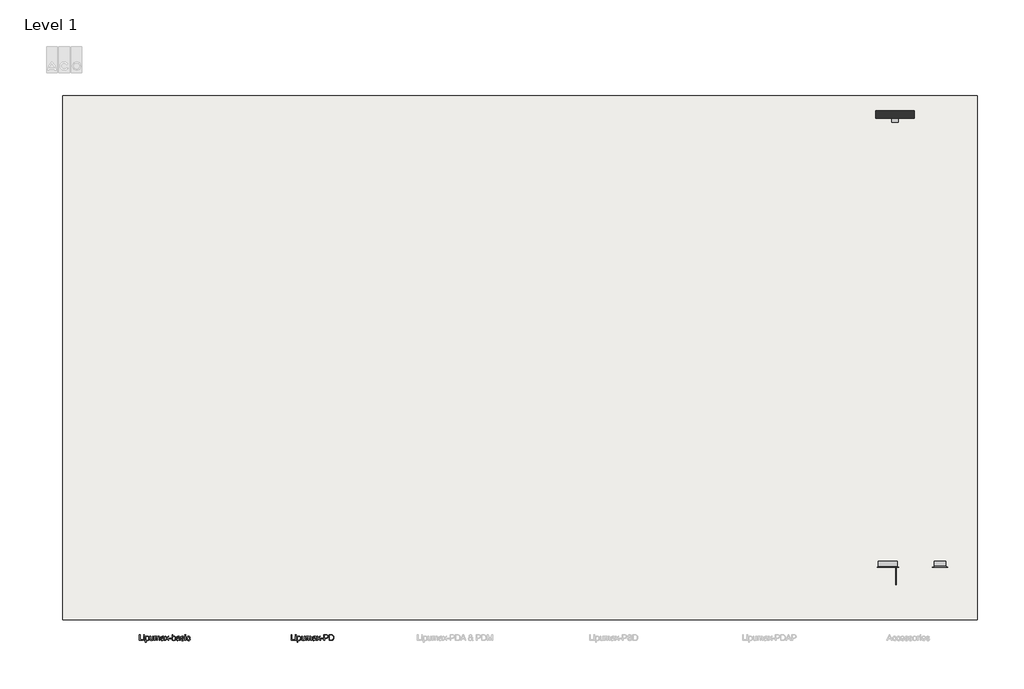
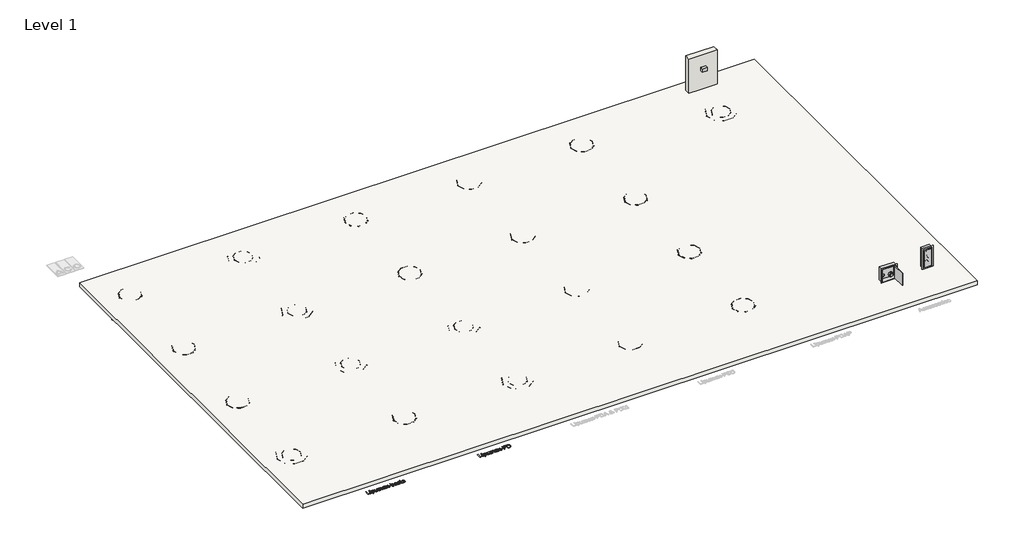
# One storey, part 1 of 2: 29 unitary equipment elements, 8 proxies, 2 furniture elements, 1 pipe fitting, 1 slab, 1 wall.
"""IFC4 building model written with IfcOpenShell, lengths in millimetres."""

from ifc_helpers import new_model, si_unit, frame, origin, origin_with_axes, place, context, project, spatial, polyline, outline, extrude, transform, mapped, element, save
from components import ns2_200_69843ea5, ns4_800_0bbe8e35, ns5_5_550_801f7e5f, message_system_with_gsm_module_9e46706c, std_7b1f1c58, furniture_300_x_725_x_160_cc6d1901, furniture_500x500x160_e2bdd59b, std_nested_ca1f84b6, std_nested_3f0f99d6, std_nested_5be599bc, std_nested_2d83406e, std_nested_4c688dec, std_nested_ce48833b, std_nested_3313eb94, std_nested_9dcc50c5, std_nested_bba80288, std_nested_8366b505, std_nested_abc9d05a, std_nested_026c7c33, std_nested_54cb986b, std_nested_809f9411, std_nested_0c7df508, std_nested_59d10d0a, std_nested_5bbcf8f4, std_nested_d4eab2f7

model = new_model("IFC4")

# Units and contexts
model_context = context("Model", 3, world=origin())
ifc_project = project(units=[si_unit("LENGTHUNIT", "METRE", prefix="MILLI")], contexts=[model_context])

# Site, building, storey
site = spatial("IfcSite", under=ifc_project)
building = spatial("IfcBuilding", under=site)
storey = spatial("IfcBuildingStorey", under=building, Name="Level 1", Elevation=0.0)

# Proxies
placement = place(None, origin())
element("IfcBuildingElementProxy", 1, Name="100mm ACO", ObjectType="100mm ACO", at=placement, inside=storey, context=model_context, shape_type="SweptSolid", body=[
    extrude(outline(polyline([(1856.3119851, -2991.7813075), (1761.8675406, -2991.7813075), (1761.8675406, -2841.7813075), (1781.3119851, -2841.7813075), (1781.3119851, -2975.1146408), (1856.3119851, -2975.1146408), (1856.3119851, -2991.7813075)])), origin_with_axes(), (0.0, 0.0, 1.0), 10.0),
    extrude(outline(polyline([(1895.200874, -2991.7813075), (1875.7564295, -2991.7813075), (1875.7564295, -2883.4479742), (1895.200874, -2883.4479742), (1895.200874, -2991.7813075)])), origin_with_axes(), (0.0, 0.0, 1.0), 10.0),
    extrude(outline(polyline([(1895.200874, -2861.2257519), (1875.7564295, -2861.2257519), (1875.7564295, -2841.7813075), (1895.200874, -2841.7813075), (1895.200874, -2861.2257519)])), origin_with_axes(), (0.0, 0.0, 1.0), 10.0),
    extrude(outline(polyline([(1942.6184087, -2896.5122103), (1955.3028705, -2884.6306999), (1972.8050406, -2880.6701964), (1991.294624, -2884.554745), (2005.4439295, -2896.2083908), (2014.4283045, -2914.101186), (2017.4230962, -2936.7031825), (2014.0376795, -2960.5367328), (2003.8814295, -2978.9123839), (1988.7989642, -2990.6474099), (1970.6349017, -2994.5590853), (1955.0750059, -2991.3689811), (1942.9439295, -2981.7986686), (1942.4230962, -3033.4479742), (1922.9786517, -3033.4479742), (1922.9786517, -2883.4479742), (1942.4230962, -2883.4479742), (1942.6184087, -2896.5122103)]), holes=[polyline([(1968.5081656, -2980.6701964), (1980.1672368, -2977.930396), (1989.623617, -2969.710995), (1995.8898931, -2956.0662467), (1997.9786517, -2937.0504047), (1995.9658479, -2918.9351703), (1989.9274365, -2905.5616894), (1980.7531743, -2897.3097363), (1969.3328184, -2894.5590853), (1957.5109868, -2897.6244065), (1948.0003531, -2906.82037), (1941.7340771, -2920.899146), (1939.6453184, -2938.6129047), (1941.6472715, -2956.7823926), (1947.6531309, -2969.9714117), (1956.8707958, -2977.9955002), (1968.5081656, -2980.6701964)])]), origin_with_axes(), (0.0, 0.0, 1.0), 10.0),
    extrude(outline(polyline([(2128.5342073, -2991.7813075), (2111.8675406, -2991.7813075), (2111.8675406, -2976.0260992), (2096.5029573, -2989.9258387), (2077.0585128, -2994.5590853), (2055.8779573, -2989.2856478), (2047.7724885, -2983.0193717), (2042.9005267, -2974.7674186), (2039.6453184, -2950.7656825), (2039.6453184, -2883.4479742), (2059.0897628, -2883.4479742), (2059.0897628, -2944.9063075), (2060.435249, -2966.0434603), (2067.466499, -2976.5469325), (2081.0081656, -2980.6701964), (2090.8660215, -2978.8255783), (2100.1270892, -2973.2917242), (2106.8490944, -2961.9635992), (2109.0897628, -2942.7361686), (2109.0897628, -2883.4479742), (2128.5342073, -2883.4479742), (2128.5342073, -2991.7813075)])), origin_with_axes(), (0.0, 0.0, 1.0), 10.0),
    extrude(outline(polyline([(2300.7564295, -2991.7813075), (2281.3119851, -2991.7813075), (2281.3119851, -2921.7292242), (2280.3354226, -2908.5130783), (2275.2572976, -2898.7908561), (2262.4751795, -2894.5590853), (2252.763808, -2896.4905089), (2244.4630267, -2902.2847797), (2238.7664122, -2912.4193283), (2236.8675406, -2927.3715853), (2236.8675406, -2991.7813075), (2217.4230962, -2991.7813075), (2217.4230962, -2919.6458908), (2216.2295198, -2907.5039637), (2212.6487906, -2899.8976269), (2206.8762212, -2895.8937207), (2199.107124, -2894.5590853), (2188.6796066, -2896.647844), (2180.3137212, -2902.91412), (2174.8124191, -2914.9095627), (2172.9786517, -2934.1858214), (2172.9786517, -2991.7813075), (2153.5342073, -2991.7813075), (2153.5342073, -2883.4479742), (2170.200874, -2883.4479742), (2170.200874, -2898.2917242), (2184.2742247, -2885.0755783), (2203.1001795, -2880.6701964), (2222.8701448, -2885.4228005), (2234.0897628, -2899.7240158), (2248.3692767, -2885.4336512), (2267.2494851, -2880.6701964), (2281.9087733, -2882.9488422), (2292.3796934, -2889.7847797), (2298.6622455, -2901.1780089), (2300.7564295, -2917.1285297), (2300.7564295, -2991.7813075)])), origin_with_axes(), (0.0, 0.0, 1.0), 10.0),
    extrude(outline(polyline([(2422.9786517, -2991.7813075), (2403.5342073, -2991.7813075), (2397.9786517, -2978.6736686), (2379.2395024, -2990.5877311), (2359.0463601, -2994.5590853), (2344.0669764, -2992.3889464), (2332.6357698, -2985.8785297), (2325.3929313, -2975.8090853), (2322.9786517, -2962.961863), (2325.3441031, -2950.4998405), (2332.4404573, -2940.4575228), (2345.3853358, -2933.117028), (2365.2963601, -2928.7604742), (2382.310249, -2926.1563075), (2397.9786517, -2922.336863), (2397.4795198, -2910.2925922), (2394.5715337, -2902.9792242), (2386.8241378, -2896.8811339), (2372.4578184, -2894.5590853), (2354.3371587, -2899.2682867), (2348.7219243, -2906.0011426), (2345.200874, -2916.7813075), (2325.7564295, -2914.3941547), (2331.0895458, -2899.680613), (2341.0993115, -2889.133738), (2355.7748757, -2882.7860818), (2375.1053878, -2880.6701964), (2392.1572542, -2882.1187641), (2403.9899365, -2886.4644672), (2411.4335128, -2892.8555262), (2415.3180615, -2900.4401617), (2417.4230962, -2921.5122103), (2417.4230962, -2946.2951964), (2418.247749, -2976.6771408), (2422.9786517, -2991.7813075)]), holes=[polyline([(2397.9786517, -2943.1701964), (2397.9786517, -2936.2257519), (2363.061117, -2944.211863), (2347.5826014, -2950.2991026), (2342.4230962, -2962.6580436), (2347.9786517, -2975.5920714), (2363.9942767, -2980.6701964), (2376.6516118, -2978.5434603), (2387.7138948, -2972.1632519), (2395.4124625, -2960.6615158), (2397.9786517, -2943.1701964)])]), origin_with_axes(), (0.0, 0.0, 1.0), 10.0),
    extrude(outline(polyline([(2534.0897628, -2991.7813075), (2514.5151101, -2991.7813075), (2484.1331656, -2949.3333908), (2453.7512212, -2991.7813075), (2434.0897628, -2991.7813075), (2474.2373323, -2935.6615158), (2436.8675406, -2883.4479742), (2456.4421934, -2883.4479742), (2484.0463601, -2921.946238), (2511.607124, -2883.4479742), (2531.3119851, -2883.4479742), (2493.8987906, -2935.7049186), (2534.0897628, -2991.7813075)])), origin_with_axes(), (0.0, 0.0, 1.0), 10.0),
    extrude(outline(polyline([(2597.9786517, -2941.7813075), (2539.6453184, -2941.7813075), (2539.6453184, -2927.8924186), (2597.9786517, -2927.8924186), (2597.9786517, -2941.7813075)])), origin_with_axes(), (0.0, 0.0, 1.0), 10.0),
    extrude(outline(polyline([(2637.1279573, -2894.1684603), (2649.6713601, -2884.0447624), (2666.294624, -2880.6701964), (2684.9306917, -2884.4896408), (2699.4326448, -2895.9479742), (2708.7588167, -2913.5695019), (2711.8675406, -2935.8785297), (2708.4495719, -2960.9816113), (2698.1956656, -2979.4332172), (2683.3627663, -2990.7776183), (2666.2078184, -2994.5590853), (2649.6822108, -2990.8481478), (2637.2581656, -2979.7153353), (2636.8675406, -2991.7813075), (2617.4230962, -2991.7813075), (2617.4230962, -2841.7813075), (2636.8675406, -2841.7813075), (2637.1279573, -2894.1684603)]), holes=[polyline([(2664.3849017, -2980.6701964), (2675.5122889, -2977.8327398), (2684.5020892, -2969.32037), (2690.4428444, -2955.6756217), (2692.4230962, -2937.4410297), (2690.6001795, -2919.7381217), (2685.1314295, -2906.1259255), (2676.450874, -2897.4507953), (2664.9925406, -2894.5590853), (2653.5559087, -2897.5430262), (2644.5932351, -2906.4948492), (2638.7989642, -2920.0148144), (2636.8675406, -2936.7031825), (2640.0793462, -2962.1372103), (2649.7581656, -2975.179745), (2664.3849017, -2980.6701964)])]), origin_with_axes(), (0.0, 0.0, 1.0), 10.0),
    extrude(outline(polyline([(2828.5342073, -2991.7813075), (2809.0897628, -2991.7813075), (2803.5342073, -2978.6736686), (2784.795058, -2990.5877311), (2764.6019156, -2994.5590853), (2749.6225319, -2992.3889464), (2738.1913253, -2985.8785297), (2730.9484868, -2975.8090853), (2728.5342073, -2962.961863), (2730.8996587, -2950.4998405), (2737.9960128, -2940.4575228), (2750.9408913, -2933.117028), (2770.8519156, -2928.7604742), (2787.8658045, -2926.1563075), (2803.5342073, -2922.336863), (2803.0350753, -2910.2925922), (2800.1270892, -2902.9792242), (2792.3796934, -2896.8811339), (2778.013374, -2894.5590853), (2759.8927142, -2899.2682867), (2754.2774799, -2906.0011426), (2750.7564295, -2916.7813075), (2731.3119851, -2914.3941547), (2736.6451014, -2899.680613), (2746.654867, -2889.133738), (2761.3304313, -2882.7860818), (2780.6609434, -2880.6701964), (2797.7128097, -2882.1187641), (2809.545492, -2886.4644672), (2816.9890684, -2892.8555262), (2820.873617, -2900.4401617), (2822.9786517, -2921.5122103), (2822.9786517, -2946.2951964), (2823.8033045, -2976.6771408), (2828.5342073, -2991.7813075)]), holes=[polyline([(2803.5342073, -2943.1701964), (2803.5342073, -2936.2257519), (2768.6166726, -2944.211863), (2753.1381569, -2950.2991026), (2747.9786517, -2962.6580436), (2753.5342073, -2975.5920714), (2769.5498323, -2980.6701964), (2782.2071674, -2978.5434603), (2793.2694503, -2972.1632519), (2800.9680181, -2960.6615158), (2803.5342073, -2943.1701964)])]), origin_with_axes(), (0.0, 0.0, 1.0), 10.0),
    extrude(outline(polyline([(2911.8675406, -2914.0035297), (2909.4641118, -2905.4965853), (2904.6843809, -2899.4201964), (2888.0828184, -2894.5590853), (2871.1123323, -2898.7257519), (2866.2620719, -2903.836429), (2864.6453184, -2910.8351269), (2868.920492, -2921.555613), (2889.0810823, -2927.3715853), (2915.6652837, -2933.6215853), (2929.2286517, -2943.1050922), (2934.0897628, -2960.0972797), (2931.0732698, -2973.492462), (2922.0237906, -2984.5981478), (2907.9287385, -2992.0688509), (2889.7755267, -2994.5590853), (2871.0635042, -2992.4649012), (2856.9413253, -2986.1823492), (2847.3981396, -2975.7222797), (2842.4230962, -2961.0955436), (2861.8675406, -2958.4479742), (2864.6832958, -2968.1973231), (2870.2659781, -2975.1363422), (2878.6264382, -2979.2867328), (2889.7755267, -2980.6701964), (2900.3983566, -2979.2324794), (2908.2217073, -2974.9193283), (2913.0394156, -2968.5445453), (2914.6453184, -2960.9219325), (2911.7590337, -2951.9592589), (2904.5541726, -2946.9028353), (2884.1765684, -2942.5625575), (2864.4120285, -2937.7231478), (2852.7746587, -2930.8438075), (2847.0943201, -2922.1741026), (2845.200874, -2911.9635992), (2848.0057785, -2899.5341287), (2856.420492, -2889.5026617), (2869.576959, -2882.8783127), (2886.607124, -2880.6701964), (2904.5053444, -2882.60162), (2917.9222281, -2888.3958908), (2926.857775, -2898.0421582), (2931.3119851, -2911.5295714), (2911.8675406, -2914.0035297)])), origin_with_axes(), (0.0, 0.0, 1.0), 10.0),
    extrude(outline(polyline([(2972.9786517, -2991.7813075), (2953.5342073, -2991.7813075), (2953.5342073, -2883.4479742), (2972.9786517, -2883.4479742), (2972.9786517, -2991.7813075)])), origin_with_axes(), (0.0, 0.0, 1.0), 10.0),
    extrude(outline(polyline([(2972.9786517, -2861.2257519), (2953.5342073, -2861.2257519), (2953.5342073, -2841.7813075), (2972.9786517, -2841.7813075), (2972.9786517, -2861.2257519)])), origin_with_axes(), (0.0, 0.0, 1.0), 10.0),
    extrude(outline(polyline([(3092.4230962, -2955.1059603), (3086.3792594, -2972.8142936), (3075.6262212, -2985.0538769), (3061.639676, -2992.1827832), (3045.8953184, -2994.5590853), (3024.4217941, -2990.6745367), (3008.4387212, -2979.0208908), (2998.5103358, -2960.9544846), (2995.200874, -2937.8316547), (2997.0888948, -2918.6910297), (3002.7529573, -2903.8038769), (3011.2544764, -2892.9369065), (3021.654867, -2885.8568283), (3045.5046934, -2880.6701964), (3061.3304313, -2882.7915071), (3074.6930615, -2889.1554394), (3084.4966639, -2899.6317849), (3089.6453184, -2914.0903353), (3070.200874, -2916.7813075), (3061.3467073, -2900.1363422), (3054.3805615, -2895.9533995), (3045.7217073, -2894.5590853), (3032.2885476, -2897.3856912), (3022.544624, -2905.8655089), (3016.6201448, -2919.4126009), (3014.6453184, -2937.4410297), (3016.6255701, -2955.7841287), (3022.5663253, -2969.4071755), (3032.2397194, -2977.8544412), (3045.4178878, -2980.6701964), (3056.15465, -2978.9340853), (3064.3197976, -2973.7257519), (3069.9241813, -2965.0451964), (3072.9786517, -2952.8924186), (3092.4230962, -2955.1059603)])), origin_with_axes(), (0.0, 0.0, 1.0), 10.0),
])
element("IfcBuildingElementProxy", 2, Name="100mm ACO", ObjectType="100mm ACO", at=placement, inside=storey, context=model_context, shape_type="SweptSolid", body=[
    extrude(outline(polyline([(5821.2579149, -2991.7813075), (5726.8134705, -2991.7813075), (5726.8134705, -2841.7813075), (5746.2579149, -2841.7813075), (5746.2579149, -2975.1146408), (5821.2579149, -2975.1146408), (5821.2579149, -2991.7813075)])), origin_with_axes(), (0.0, 0.0, 1.0), 10.0),
    extrude(outline(polyline([(5860.1468038, -2991.7813075), (5840.7023594, -2991.7813075), (5840.7023594, -2883.4479742), (5860.1468038, -2883.4479742), (5860.1468038, -2991.7813075)])), origin_with_axes(), (0.0, 0.0, 1.0), 10.0),
    extrude(outline(polyline([(5860.1468038, -2861.2257519), (5840.7023594, -2861.2257519), (5840.7023594, -2841.7813075), (5860.1468038, -2841.7813075), (5860.1468038, -2861.2257519)])), origin_with_axes(), (0.0, 0.0, 1.0), 10.0),
    extrude(outline(polyline([(5907.5643385, -2896.5122103), (5920.2488003, -2884.6306999), (5937.7509705, -2880.6701964), (5956.2405538, -2884.554745), (5970.3898594, -2896.2083908), (5979.3742344, -2914.101186), (5982.369026, -2936.7031825), (5978.9836094, -2960.5367328), (5968.8273594, -2978.9123839), (5953.7448941, -2990.6474099), (5935.5808316, -2994.5590853), (5920.0209357, -2991.3689811), (5907.8898594, -2981.7986686), (5907.369026, -3033.4479742), (5887.9245816, -3033.4479742), (5887.9245816, -2883.4479742), (5907.369026, -2883.4479742), (5907.5643385, -2896.5122103)]), holes=[polyline([(5933.4540955, -2980.6701964), (5945.1131666, -2977.930396), (5954.5695469, -2969.710995), (5960.8358229, -2956.0662467), (5962.9245816, -2937.0504047), (5960.9117778, -2918.9351703), (5954.8733663, -2905.5616894), (5945.6991041, -2897.3097363), (5934.2787482, -2894.5590853), (5922.4569166, -2897.6244065), (5912.946283, -2906.82037), (5906.6800069, -2920.899146), (5904.5912482, -2938.6129047), (5906.5932014, -2956.7823926), (5912.5990607, -2969.9714117), (5921.8167257, -2977.9955002), (5933.4540955, -2980.6701964)])]), origin_with_axes(), (0.0, 0.0, 1.0), 10.0),
    extrude(outline(polyline([(6093.4801371, -2991.7813075), (6076.8134705, -2991.7813075), (6076.8134705, -2976.0260992), (6061.4488871, -2989.9258387), (6042.0044427, -2994.5590853), (6020.8238871, -2989.2856478), (6012.7184184, -2983.0193717), (6007.8464566, -2974.7674186), (6004.5912482, -2950.7656825), (6004.5912482, -2883.4479742), (6024.0356927, -2883.4479742), (6024.0356927, -2944.9063075), (6025.3811788, -2966.0434603), (6032.4124288, -2976.5469325), (6045.9540955, -2980.6701964), (6055.8119514, -2978.8255783), (6065.0730191, -2973.2917242), (6071.7950243, -2961.9635992), (6074.0356927, -2942.7361686), (6074.0356927, -2883.4479742), (6093.4801371, -2883.4479742), (6093.4801371, -2991.7813075)])), origin_with_axes(), (0.0, 0.0, 1.0), 10.0),
    extrude(outline(polyline([(6265.7023594, -2991.7813075), (6246.2579149, -2991.7813075), (6246.2579149, -2921.7292242), (6245.2813524, -2908.5130783), (6240.2032274, -2898.7908561), (6227.4211094, -2894.5590853), (6217.7097378, -2896.4905089), (6209.4089566, -2902.2847797), (6203.712342, -2912.4193283), (6201.8134705, -2927.3715853), (6201.8134705, -2991.7813075), (6182.369026, -2991.7813075), (6182.369026, -2919.6458908), (6181.1754496, -2907.5039637), (6177.5947205, -2899.8976269), (6171.822151, -2895.8937207), (6164.0530538, -2894.5590853), (6153.6255364, -2896.647844), (6145.259651, -2902.91412), (6139.7583489, -2914.9095627), (6137.9245816, -2934.1858214), (6137.9245816, -2991.7813075), (6118.4801371, -2991.7813075), (6118.4801371, -2883.4479742), (6135.1468038, -2883.4479742), (6135.1468038, -2898.2917242), (6149.2201545, -2885.0755783), (6168.0461094, -2880.6701964), (6187.8160746, -2885.4228005), (6199.0356927, -2899.7240158), (6213.3152066, -2885.4336512), (6232.1954149, -2880.6701964), (6246.8547031, -2882.9488422), (6257.3256232, -2889.7847797), (6263.6081753, -2901.1780089), (6265.7023594, -2917.1285297), (6265.7023594, -2991.7813075)])), origin_with_axes(), (0.0, 0.0, 1.0), 10.0),
    extrude(outline(polyline([(6387.9245816, -2991.7813075), (6368.4801371, -2991.7813075), (6362.9245816, -2978.6736686), (6344.1854323, -2990.5877311), (6323.9922899, -2994.5590853), (6309.0129062, -2992.3889464), (6297.5816996, -2985.8785297), (6290.3388611, -2975.8090853), (6287.9245816, -2962.961863), (6290.290033, -2950.4998405), (6297.3863871, -2940.4575228), (6310.3312656, -2933.117028), (6330.2422899, -2928.7604742), (6347.2561788, -2926.1563075), (6362.9245816, -2922.336863), (6362.4254496, -2910.2925922), (6359.5174635, -2902.9792242), (6351.7700677, -2896.8811339), (6337.4037482, -2894.5590853), (6319.2830885, -2899.2682867), (6313.6678541, -2906.0011426), (6310.1468038, -2916.7813075), (6290.7023594, -2914.3941547), (6296.0354757, -2899.680613), (6306.0452413, -2889.133738), (6320.7208055, -2882.7860818), (6340.0513177, -2880.6701964), (6357.103184, -2882.1187641), (6368.9358663, -2886.4644672), (6376.3794427, -2892.8555262), (6380.2639913, -2900.4401617), (6382.369026, -2921.5122103), (6382.369026, -2946.2951964), (6383.1936788, -2976.6771408), (6387.9245816, -2991.7813075)]), holes=[polyline([(6362.9245816, -2943.1701964), (6362.9245816, -2936.2257519), (6328.0070469, -2944.211863), (6312.5285312, -2950.2991026), (6307.369026, -2962.6580436), (6312.9245816, -2975.5920714), (6328.9402066, -2980.6701964), (6341.5975416, -2978.5434603), (6352.6598246, -2972.1632519), (6360.3583923, -2960.6615158), (6362.9245816, -2943.1701964)])]), origin_with_axes(), (0.0, 0.0, 1.0), 10.0),
    extrude(outline(polyline([(6499.0356927, -2991.7813075), (6479.4610399, -2991.7813075), (6449.0790955, -2949.3333908), (6418.697151, -2991.7813075), (6399.0356927, -2991.7813075), (6439.1832621, -2935.6615158), (6401.8134705, -2883.4479742), (6421.3881232, -2883.4479742), (6448.9922899, -2921.946238), (6476.5530538, -2883.4479742), (6496.2579149, -2883.4479742), (6458.8447205, -2935.7049186), (6499.0356927, -2991.7813075)])), origin_with_axes(), (0.0, 0.0, 1.0), 10.0),
    extrude(outline(polyline([(6562.9245816, -2941.7813075), (6504.5912482, -2941.7813075), (6504.5912482, -2927.8924186), (6562.9245816, -2927.8924186), (6562.9245816, -2941.7813075)])), origin_with_axes(), (0.0, 0.0, 1.0), 10.0),
    extrude(outline(polyline([(6585.1468038, -2841.7813075), (6641.4836094, -2841.7813075), (6664.4436788, -2843.1050922), (6682.3256232, -2849.9844325), (6694.8039219, -2865.0668978), (6699.0356927, -2885.0104742), (6695.6991041, -2903.6573926), (6685.6893385, -2918.1918978), (6668.3228021, -2927.5506217), (6642.915901, -2930.6701964), (6604.5912482, -2930.6701964), (6604.5912482, -2991.7813075), (6585.1468038, -2991.7813075), (6585.1468038, -2841.7813075)]), holes=[polyline([(6604.5912482, -2914.0035297), (6643.697151, -2914.0035297), (6659.4008186, -2912.2267285), (6670.6177239, -2906.8963249), (6677.3478672, -2898.0123188), (6679.5912482, -2885.5747103), (6674.9254496, -2869.1033561), (6663.4671163, -2860.2057867), (6643.2631232, -2858.4479742), (6604.5912482, -2858.4479742), (6604.5912482, -2914.0035297)])]), origin_with_axes(), (0.0, 0.0, 1.0), 10.0),
    extrude(outline(polyline([(6724.0356927, -2841.7813075), (6775.0773594, -2841.7813075), (6798.1676371, -2843.1701964), (6816.6572205, -2849.9193283), (6832.086908, -2864.6979742), (6842.4818732, -2886.3342589), (6846.2579149, -2915.9566547), (6842.3733663, -2946.1595627), (6830.7197205, -2970.4488422), (6821.5535963, -2979.7817958), (6809.5934184, -2986.4481912), (6777.290901, -2991.7813075), (6724.0356927, -2991.7813075), (6724.0356927, -2841.7813075)]), holes=[polyline([(6743.4801371, -2975.1146408), (6775.4679844, -2975.1146408), (6792.9376024, -2973.8559603), (6808.540901, -2967.0634255), (6821.6268385, -2948.9210644), (6825.5168125, -2934.2672016), (6826.8134705, -2915.5226269), (6824.8169427, -2894.0816547), (6817.4818732, -2875.9175922), (6805.2205885, -2863.9167242), (6791.7223246, -2859.2726269), (6774.8603455, -2858.4479742), (6743.4801371, -2858.4479742), (6743.4801371, -2975.1146408)])]), origin_with_axes(), (0.0, 0.0, 1.0), 10.0),
])
ns2_200_shape = ns2_200_69843ea5(model_context)
element("IfcBuildingElementProxy", 3, Name="ME_PE_UN_Lipumax-PSD_ACO : NS2/200", ObjectType="ME_PE_UN_Lipumax-PSD_ACO : NS2/200", at=placement, inside=storey, context=model_context, shape_type="MappedRepresentation", body=[
    mapped(ns2_200_shape, transform((12790.0, 19.9740349, 0.0), x_axis=(1.0, 0.0, 0.0), y_axis=(0.0, 1.0, 0.0), z_axis=(0.0, 0.0, 1.0))),
])
element("IfcBuildingElementProxy", 4, Name="ME_PE_UN_Lipumax-PSD_ACO : NS2/400", ObjectType="ME_PE_UN_Lipumax-PSD_ACO : NS2/400", at=placement, inside=storey, context=model_context, shape_type="MappedRepresentation", body=[
    mapped(ns2_200_shape, transform((12790.0, 3320.0, 0.0), x_axis=(1.0, 0.0, 0.0), y_axis=(0.0, 1.0, 0.0), z_axis=(0.0, 0.0, 1.0))),
])
ns4_800_shape = ns4_800_0bbe8e35(model_context)
element("IfcBuildingElementProxy", 5, Name="ME_PE_UN_Lipumax-PSD_ACO : NS4/800", ObjectType="ME_PE_UN_Lipumax-PSD_ACO : NS4/800", at=placement, inside=storey, context=model_context, shape_type="MappedRepresentation", body=[
    mapped(ns4_800_shape, transform((12790.0, 6620.0, 0.0), x_axis=(1.0, 0.0, 0.0), y_axis=(0.0, 1.0, 0.0), z_axis=(0.0, 0.0, 1.0))),
])
ns5_5_550_shape = ns5_5_550_801f7e5f(model_context)
element("IfcBuildingElementProxy", 6, Name="ME_PE_UN_Lipumax-PSD_ACO : NS5.5/550", ObjectType="ME_PE_UN_Lipumax-PSD_ACO : NS5.5/550", at=placement, inside=storey, context=model_context, shape_type="MappedRepresentation", body=[
    mapped(ns5_5_550_shape, transform((12790.0, 9920.0, 0.0), x_axis=(1.0, 0.0, 0.0), y_axis=(0.0, 1.0, 0.0), z_axis=(0.0, 0.0, 1.0))),
])
message_system_with_gsm_module_shape = message_system_with_gsm_module_9e46706c(model_context)
element("IfcBuildingElementProxy", 7, Name="CD_PVC_WPB_signalling device_ACO : message system with GSM module", ObjectType="CD_PVC_WPB_signalling device_ACO : message system with GSM module", at=placement, inside=storey, context=model_context, shape_type="MappedRepresentation", body=[
    mapped(message_system_with_gsm_module_shape, transform((21510.0, 10657.8951528, 768.423991), x_axis=(1.0, 0.0, 0.0), y_axis=(0.0, 0.0, 1.0), z_axis=(0.0, -1.0, 0.0))),
])
std_shape = std_7b1f1c58(model_context)
element("IfcBuildingElementProxy", 8, Name="ZZZ_do not use_CD_PVC_remote control_ACO : std", ObjectType="ZZZ_do not use_CD_PVC_remote control_ACO : std", at=placement, inside=storey, context=model_context, shape_type="MappedRepresentation", body=[
    mapped(std_shape, transform((22690.0, -922.0, 560.0), x_axis=(1.0, 0.0, 0.0), y_axis=(0.0, 0.0, 1.0), z_axis=(0.0, -1.0, 0.0))),
])

# Furniture
furniture_300_x_725_x_160_shape = furniture_300_x_725_x_160_cc6d1901(model_context)
element("IfcFurniture", 9, ObjectType="ME_ST_UN_connection box double connection_ACO : 300 x 725 x 160", at=placement, inside=storey, context=model_context, shape_type="MappedRepresentation", body=[
    mapped(furniture_300_x_725_x_160_shape, transform((22690.0, -1080.0, 0.0), x_axis=(1.0, 0.0, 0.0), y_axis=(0.0, 1.0, 0.0), z_axis=(0.0, 0.0, 1.0))),
])
furniture_500x500x160_shape = furniture_500x500x160_e2bdd59b(model_context)
element("IfcFurniture", 10, ObjectType="ME_ST_UN_connection box single connection_ACO : 500x500x160", at=placement, inside=storey, context=model_context, shape_type="MappedRepresentation", body=[
    mapped(furniture_500x500x160_shape, transform((21324.2584637, -1080.0, 0.0), x_axis=(1.0, 0.0, 0.0), y_axis=(0.0, 1.0, 0.0), z_axis=(0.0, 0.0, 1.0))),
])

# Pipe fitting
std_nested_shape = std_nested_ca1f84b6(model_context)
element("IfcPipeFitting", 11, ObjectType="ZZZ_do not use_ME_ST_WPB_sealing sleeve_ACO : std(nested)", at=placement, inside=storey, context=model_context, shape_type="MappedRepresentation", body=[
    mapped(std_nested_shape, transform((1328.9154899, 9734.4937551, -1100.0), x_axis=(-0.32556815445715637, -0.945518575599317, 0.0), y_axis=(0.0, 0.0, -1.0), z_axis=(0.945518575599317, -0.32556815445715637, 0.0))),
])

# Slab
element("IfcSlab", 12, ObjectType="Floor 1", at=placement, inside=storey, context=model_context, shape_type="SweptSolid", body=[
    extrude(outline(polyline([(23665.0, 11237.8951528), (23665.0, -2446.1810325), (-235.0158061, -2446.1810325), (-235.0158061, 11237.8951528), (23665.0, 11237.8951528)])), frame((0.0, 0.0, -150.0), z_axis=(0.0, 0.0, 1.0), x_axis=(1.0, 0.0, 0.0)), (0.0, 0.0, 1.0), 150.0),
])

# Unitary equipment
std_nested_2_shape = std_nested_3f0f99d6(model_context)
element("IfcUnitaryEquipment", 13, ObjectType="ZZZ_do not use_ME_PE_WPB_concrete_bearing ring_ACO : std(nested)", at=placement, inside=storey, context=model_context, shape_type="MappedRepresentation", body=[
    mapped(std_nested_2_shape, transform((790.2227196, 9920.0, -290.0), x_axis=(1.0, 0.0, 0.0), y_axis=(0.0, 1.0, 0.0), z_axis=(0.0, 0.0, 1.0))),
])
element("IfcUnitaryEquipment", 14, ObjectType="ZZZ_do not use_ME_PE_WPB_concrete_bearing ring_ACO : std(nested)", at=placement, inside=storey, context=model_context, shape_type="MappedRepresentation", body=[
    mapped(std_nested_2_shape, transform((12790.0, 6620.0, -165.0), x_axis=(1.0, 0.0, 0.0), y_axis=(0.0, 1.0, 0.0), z_axis=(0.0, 0.0, 1.0))),
])
std_nested_3_shape = std_nested_5be599bc(model_context)
element("IfcUnitaryEquipment", 15, ObjectType="ZZZ_do not use_ME_ST_WPB_load distribution plate D400_ACO : std(nested)", at=placement, inside=storey, context=model_context, shape_type="MappedRepresentation", body=[
    mapped(std_nested_3_shape, transform((12790.0, 9920.0, -125.0), x_axis=(1.0, 0.0, 0.0), y_axis=(0.0, 1.0, 0.0), z_axis=(0.0, 0.0, 1.0))),
])
std_nested_4_shape = std_nested_2d83406e(model_context)
element("IfcUnitaryEquipment", 16, ObjectType="ZZZ_do not use_ME_ST_WPB_adapter ring_ACO : std(nested)", at=placement, inside=storey, context=model_context, shape_type="MappedRepresentation", body=[
    mapped(std_nested_4_shape, transform((12790.0, 9920.0, -225.0), x_axis=(1.0, 0.0, 0.0), y_axis=(0.0, 1.0, 0.0), z_axis=(0.0, 0.0, 1.0))),
])
std_nested_5_shape = std_nested_4c688dec(model_context)
element("IfcUnitaryEquipment", 17, ObjectType="ZZZ_do not use_ME_ST_WPB_top sections_plastic_ACO : std(nested)", at=placement, inside=storey, context=model_context, shape_type="MappedRepresentation", body=[
    mapped(std_nested_5_shape, transform((790.2227196, 19.9740349, 0.0), x_axis=(1.0, 0.0, 0.0), y_axis=(0.0, 1.0, 0.0), z_axis=(0.0, 0.0, 1.0))),
])
std_nested_6_shape = std_nested_ce48833b(model_context)
element("IfcUnitaryEquipment", 18, ObjectType="ZZZ_do not use_ME_ST_WPB_top sections_plastic_ACO : std(nested)", at=placement, inside=storey, context=model_context, shape_type="MappedRepresentation", body=[
    mapped(std_nested_6_shape, transform((790.2227196, 3320.0, 0.0), x_axis=(1.0, 0.0, 0.0), y_axis=(0.0, 1.0, 0.0), z_axis=(0.0, 0.0, 1.0))),
])
std_nested_7_shape = std_nested_3313eb94(model_context)
element("IfcUnitaryEquipment", 19, ObjectType="ZZZ_do not use_ME_ST_WPB_top sections_plastic_ACO : std(nested)", at=placement, inside=storey, context=model_context, shape_type="MappedRepresentation", body=[
    mapped(std_nested_7_shape, transform((790.2227196, 6620.0, 0.0), x_axis=(1.0, 0.0, 0.0), y_axis=(0.0, 1.0, 0.0), z_axis=(0.0, 0.0, 1.0))),
])
std_nested_8_shape = std_nested_9dcc50c5(model_context)
element("IfcUnitaryEquipment", 20, ObjectType="ZZZ_do not use_ME_ST_WPB_top sections_plastic_ACO : std(nested)", at=placement, inside=storey, context=model_context, shape_type="MappedRepresentation", body=[
    mapped(std_nested_8_shape, transform((790.2227196, 9920.0, 0.0), x_axis=(1.0, 0.0, 0.0), y_axis=(0.0, 1.0, 0.0), z_axis=(0.0, 0.0, 1.0))),
])
std_nested_9_shape = std_nested_bba80288(model_context)
element("IfcUnitaryEquipment", 21, ObjectType="ZZZ_do not use_ME_PE_WPB_concrete_bearing ring_ACO : std(nested)", at=placement, inside=storey, context=model_context, shape_type="MappedRepresentation", body=[
    mapped(std_nested_9_shape, transform((790.2227196, 9920.0, -200.0), x_axis=(1.0, 0.0, 0.0), y_axis=(0.0, 1.0, 0.0), z_axis=(0.0, 0.0, 1.0))),
])
element("IfcUnitaryEquipment", 22, ObjectType="ZZZ_do not use_ME_PE_WPB_concrete_bearing ring_ACO : std(nested)", at=placement, inside=storey, context=model_context, shape_type="MappedRepresentation", body=[
    mapped(std_nested_9_shape, transform((12790.0, 6620.0, -75.0), x_axis=(1.0, 0.0, 0.0), y_axis=(0.0, 1.0, 0.0), z_axis=(0.0, 0.0, 1.0))),
])
std_nested_10_shape = std_nested_8366b505(model_context)
element("IfcUnitaryEquipment", 23, ObjectType="ZZZ_do not use_ME_PE_WPB_concrete_bearing ring_ACO : std(nested)", at=placement, inside=storey, context=model_context, shape_type="MappedRepresentation", body=[
    mapped(std_nested_10_shape, transform((790.2227196, 9920.0, -90.0), x_axis=(1.0, 0.0, 0.0), y_axis=(0.0, 1.0, 0.0), z_axis=(0.0, 0.0, 1.0))),
])
element("IfcUnitaryEquipment", 24, ObjectType="ZZZ_do not use_ME_PE_WPB_concrete_bearing ring_ACO : std(nested)", at=placement, inside=storey, context=model_context, shape_type="MappedRepresentation", body=[
    mapped(std_nested_10_shape, transform((8790.0, 6620.0, -90.0), x_axis=(1.0, 0.0, 0.0), y_axis=(0.0, 1.0, 0.0), z_axis=(0.0, 0.0, 1.0))),
])
std_nested_11_shape = std_nested_abc9d05a(model_context)
element("IfcUnitaryEquipment", 25, ObjectType="ZZZ_do not use_ME_ST_WPB_top sections_plastic_ACO : std(nested)", at=placement, inside=storey, context=model_context, shape_type="MappedRepresentation", body=[
    mapped(std_nested_11_shape, transform((4788.5686425, 19.9740349, 0.0), x_axis=(1.0, 0.0, 0.0), y_axis=(0.0, 1.0, 0.0), z_axis=(0.0, 0.0, 1.0))),
])
std_nested_12_shape = std_nested_026c7c33(model_context)
element("IfcUnitaryEquipment", 26, ObjectType="ZZZ_do not use_ME_ST_WPB_top sections_plastic_ACO : std(nested)", at=placement, inside=storey, context=model_context, shape_type="MappedRepresentation", body=[
    mapped(std_nested_12_shape, transform((8790.0, 19.9740349, 0.0), x_axis=(1.0, 0.0, 0.0), y_axis=(0.0, 1.0, 0.0), z_axis=(0.0, 0.0, 1.0))),
])
std_nested_13_shape = std_nested_54cb986b(model_context)
element("IfcUnitaryEquipment", 27, ObjectType="ZZZ_do not use_ME_ST_WPB_manhole covers_ACO : std(nested)", at=placement, inside=storey, context=model_context, shape_type="MappedRepresentation", body=[
    mapped(std_nested_13_shape, transform((12790.0, 19.9740349, 0.0), x_axis=(1.0, 0.0, 0.0), y_axis=(0.0, 1.0, 0.0), z_axis=(0.0, 0.0, 1.0))),
])
element("IfcUnitaryEquipment", 28, ObjectType="ZZZ_do not use_ME_ST_WPB_top sections_plastic_ACO : std(nested)", at=placement, inside=storey, context=model_context, shape_type="MappedRepresentation", body=[
    mapped(std_nested_6_shape, transform((16790.0, 19.9740349, 0.0), x_axis=(1.0, 0.0, 0.0), y_axis=(0.0, 1.0, 0.0), z_axis=(0.0, 0.0, 1.0))),
])
std_nested_14_shape = std_nested_809f9411(model_context)
element("IfcUnitaryEquipment", 29, ObjectType="ZZZ_do not use_ME_ST_WPB_top sections_plastic_ACO : std(nested)", at=placement, inside=storey, context=model_context, shape_type="MappedRepresentation", body=[
    mapped(std_nested_14_shape, transform((4788.5686425, 3320.0, 0.0), x_axis=(1.0, 0.0, 0.0), y_axis=(0.0, 1.0, 0.0), z_axis=(0.0, 0.0, 1.0))),
])
std_nested_15_shape = std_nested_0c7df508(model_context)
element("IfcUnitaryEquipment", 30, ObjectType="ZZZ_do not use_ME_ST_WPB_top sections_plastic_ACO : std(nested)", at=placement, inside=storey, context=model_context, shape_type="MappedRepresentation", body=[
    mapped(std_nested_15_shape, transform((4788.5686425, 6620.0, 0.0), x_axis=(1.0, 0.0, 0.0), y_axis=(0.0, 1.0, 0.0), z_axis=(0.0, 0.0, 1.0))),
])
element("IfcUnitaryEquipment", 31, ObjectType="ZZZ_do not use_ME_ST_WPB_top sections_plastic_ACO : std(nested)", at=placement, inside=storey, context=model_context, shape_type="MappedRepresentation", body=[
    mapped(std_nested_15_shape, transform((4788.5686425, 9920.0, 0.0), x_axis=(1.0, 0.0, 0.0), y_axis=(0.0, 1.0, 0.0), z_axis=(0.0, 0.0, 1.0))),
])
element("IfcUnitaryEquipment", 32, ObjectType="ZZZ_do not use_ME_ST_WPB_top sections_plastic_ACO : std(nested)", at=placement, inside=storey, context=model_context, shape_type="MappedRepresentation", body=[
    mapped(std_nested_14_shape, transform((8790.0, 3320.0, 0.0), x_axis=(1.0, 0.0, 0.0), y_axis=(0.0, 1.0, 0.0), z_axis=(0.0, 0.0, 1.0))),
])
std_nested_16_shape = std_nested_59d10d0a(model_context)
element("IfcUnitaryEquipment", 33, ObjectType="ZZZ_do not use_ME_ST_WPB_top sections_plastic_ACO : std(nested)", at=placement, inside=storey, context=model_context, shape_type="MappedRepresentation", body=[
    mapped(std_nested_16_shape, transform((8790.0, 6620.0, 0.0), x_axis=(1.0, 0.0, 0.0), y_axis=(0.0, 1.0, 0.0), z_axis=(0.0, 0.0, 1.0))),
])
std_nested_17_shape = std_nested_5bbcf8f4(model_context)
element("IfcUnitaryEquipment", 34, ObjectType="ZZZ_do not use_ME_ST_WPB_top sections_plastic_ACO : std(nested)", at=placement, inside=storey, context=model_context, shape_type="MappedRepresentation", body=[
    mapped(std_nested_17_shape, transform((8790.0, 9920.0, 0.0), x_axis=(1.0, 0.0, 0.0), y_axis=(0.0, 1.0, 0.0), z_axis=(0.0, 0.0, 1.0))),
])
element("IfcUnitaryEquipment", 35, ObjectType="ZZZ_do not use_ME_ST_WPB_manhole covers_ACO : std(nested)", at=placement, inside=storey, context=model_context, shape_type="MappedRepresentation", body=[
    mapped(std_nested_13_shape, transform((12790.0, 3320.0, 0.0), x_axis=(1.0, 0.0, 0.0), y_axis=(0.0, 1.0, 0.0), z_axis=(0.0, 0.0, 1.0))),
])
element("IfcUnitaryEquipment", 36, ObjectType="ZZZ_do not use_ME_ST_WPB_manhole covers_ACO : std(nested)", at=placement, inside=storey, context=model_context, shape_type="MappedRepresentation", body=[
    mapped(std_nested_13_shape, transform((12790.0, 6620.0, 0.0), x_axis=(1.0, 0.0, 0.0), y_axis=(0.0, 1.0, 0.0), z_axis=(0.0, 0.0, 1.0))),
])
std_nested_18_shape = std_nested_d4eab2f7(model_context)
element("IfcUnitaryEquipment", 37, ObjectType="ZZZ_do not use_ME_ST_WPB_manhole covers_ACO : std(nested)", at=placement, inside=storey, context=model_context, shape_type="MappedRepresentation", body=[
    mapped(std_nested_18_shape, transform((12790.0, 9920.0, 0.0), x_axis=(1.0, 0.0, 0.0), y_axis=(0.0, 1.0, 0.0), z_axis=(0.0, 0.0, 1.0))),
])
element("IfcUnitaryEquipment", 38, ObjectType="ZZZ_do not use_ME_ST_WPB_top sections_plastic_ACO : std(nested)", at=placement, inside=storey, context=model_context, shape_type="MappedRepresentation", body=[
    mapped(std_nested_7_shape, transform((16790.0, 3320.0, 0.0), x_axis=(1.0, 0.0, 0.0), y_axis=(0.0, 1.0, 0.0), z_axis=(0.0, 0.0, 1.0))),
])
element("IfcUnitaryEquipment", 39, ObjectType="ZZZ_do not use_ME_ST_WPB_top sections_plastic_ACO : std(nested)", at=placement, inside=storey, context=model_context, shape_type="MappedRepresentation", body=[
    mapped(std_nested_7_shape, transform((16790.0, 6620.0, 0.0), x_axis=(1.0, 0.0, 0.0), y_axis=(0.0, 1.0, 0.0), z_axis=(0.0, 0.0, 1.0))),
])
element("IfcUnitaryEquipment", 40, ObjectType="ZZZ_do not use_ME_ST_WPB_top sections_plastic_ACO : std(nested)", at=placement, inside=storey, context=model_context, shape_type="MappedRepresentation", body=[
    mapped(std_nested_7_shape, transform((16790.0, 9920.0, 0.0), x_axis=(1.0, 0.0, 0.0), y_axis=(0.0, 1.0, 0.0), z_axis=(0.0, 0.0, 1.0))),
])
element("IfcUnitaryEquipment", 41, ObjectType="ZZZ_do not use_ME_ST_WPB_top sections_plastic_ACO : std(nested)", at=placement, inside=storey, context=model_context, shape_type="MappedRepresentation", body=[
    mapped(std_nested_15_shape, transform((21371.4210018, 9320.0, 0.0), x_axis=(1.0, 0.0, 0.0), y_axis=(0.0, 1.0, 0.0), z_axis=(0.0, 0.0, 1.0))),
])

# Wall
element("IfcWall", 42, ObjectType="200mm", at=placement, inside=storey, context=model_context, shape_type="SweptSolid", body=[
    extrude(outline(polyline([(22010.0, 10657.8951528), (21010.0, 10657.8951528), (21010.0, 10857.8951528), (22010.0, 10857.8951528), (22010.0, 10657.8951528)])), origin_with_axes(), (0.0, 0.0, 1.0), 1284.5689399),
])

save(model, "model.ifc")
